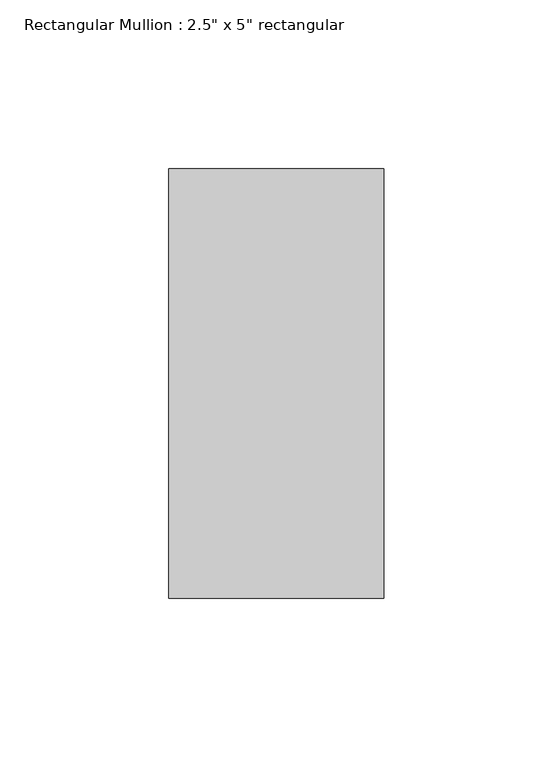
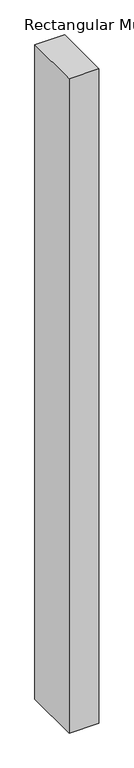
"""IFC4 building model written with IfcOpenShell, lengths in millimetres: member geometry."""

import ifcopenshell
import ifcopenshell.guid

model = None  # the IFC model being written
_history = None  # IfcOwnerHistory: only IFC2X3 demands one
_inside = {}  # id of a spatial element -> (the spatial element, [elements in it])
_under = {}  # id of a project, library or spatial element -> (it, [spatial elements below it])
_declared = {}  # id of a project -> (the project, [libraries it declares])
_typed = {}  # id of a type object -> (the type object, [elements of that type])
_made_of = {}  # id of a material, layer set ... -> (it, [elements and type objects made of it])


def new_model(schema):
    """Start an empty IFC model of exactly this schema.

    Asked for "IFC4X3", IfcOpenShell would pick the latest addendum, in which some entities
    have other attributes; the version numbers below select the first issue.
    IFC2X3 requires an IfcOwnerHistory on every rooted entity: one is made here for all.
    """
    global model, _history
    if schema == "IFC4X3":
        model = ifcopenshell.file(schema_version=(4, 3, 0, 0))
    else:
        model = ifcopenshell.file(schema=schema)
    _inside.clear()
    _under.clear()
    _declared.clear()
    _typed.clear()
    _made_of.clear()
    _history = None
    if model.schema == "IFC2X3":
        org = make("IfcOrganization", Name="unknown")
        user = make(
            "IfcPersonAndOrganization",
            ThePerson=make("IfcPerson", FamilyName="unknown"),
            TheOrganization=org,
        )
        app = make(
            "IfcApplication",
            ApplicationDeveloper=org,
            Version="unknown",
            ApplicationFullName="unknown",
            ApplicationIdentifier="unknown",
        )
        _history = make(
            "IfcOwnerHistory",
            OwningUser=user,
            OwningApplication=app,
            ChangeAction="ADDED",
            CreationDate=0,
        )
    return model


def make(cls, **values):
    """One entity of the class cls with the attributes given. An attribute that is None is left unset."""
    return model.create_entity(
        cls, **{name: value for name, value in values.items() if value is not None}
    )


def rooted(cls, **values):
    """An entity with a GlobalId (a new one), such as an element, a storey or a relation."""
    return make(cls, GlobalId=ifcopenshell.guid.new(), OwnerHistory=_history, **values)


def si_unit(unit_type, name, prefix=None):
    """IfcSIUnit, for example si_unit("LENGTHUNIT", "METRE", prefix="MILLI")."""
    return make("IfcSIUnit", UnitType=unit_type, Prefix=prefix, Name=name)


def assignment(units):
    """IfcUnitAssignment: the units of a project."""
    return None if units is None else make("IfcUnitAssignment", Units=units)


def point(xyz):
    """IfcCartesianPoint."""
    return None if xyz is None else make("IfcCartesianPoint", Coordinates=xyz)


def direction(xyz):
    """IfcDirection."""
    return None if xyz is None else make("IfcDirection", DirectionRatios=xyz)


def frame(location, z_axis=None, x_axis=None):
    """IfcAxis2Placement3D, a coordinate frame: its origin and axes. An axis left out is left unset."""
    return make(
        "IfcAxis2Placement3D",
        Location=point(location),
        Axis=direction(z_axis),
        RefDirection=direction(x_axis),
    )


def origin():
    """The frame at (0, 0, 0) with its axes left unset."""
    return frame((0.0, 0.0, 0.0))


def place(relative_to, where):
    """IfcLocalPlacement: puts the frame where relative to a parent placement (None: the world)."""
    return make(
        "IfcLocalPlacement", PlacementRelTo=relative_to, RelativePlacement=where
    )


def context(
    kind, dimensions, precision=None, world=None, true_north=None, identifier=None
):
    """IfcGeometricRepresentationContext, for example the 3D "Model" context."""
    return make(
        "IfcGeometricRepresentationContext",
        ContextIdentifier=identifier,
        ContextType=kind,
        CoordinateSpaceDimension=dimensions,
        Precision=precision,
        WorldCoordinateSystem=world,
        TrueNorth=true_north,
    )


def project(units=None, contexts=None):
    """IfcProject with its units and contexts."""
    return rooted(
        "IfcProject",
        Name="project",
        RepresentationContexts=contexts,
        UnitsInContext=assignment(units),
    )


def spatial(cls, under=None, at=None, **own):
    """A site, building, storey or space (cls), placed at a placement, below another one or the project."""
    s = rooted(cls, ObjectPlacement=at, **own)
    if under is not None:
        _under.setdefault(under.id(), (under, []))[1].append(s)
    return s


def polyline(points):
    """IfcPolyline through the points."""
    return make("IfcPolyline", Points=[point(p) for p in points])


def outline(outer, holes=None, kind="AREA"):
    """IfcArbitraryClosedProfileDef: a profile drawn as a closed curve; with holes, ...WithVoids."""
    if holes is None:
        return make("IfcArbitraryClosedProfileDef", ProfileType=kind, OuterCurve=outer)
    return make(
        "IfcArbitraryProfileDefWithVoids",
        ProfileType=kind,
        OuterCurve=outer,
        InnerCurves=holes,
    )


def extrude(swept, where, along, depth):
    """IfcExtrudedAreaSolid: the profile swept, set in the frame where, extruded along a direction by depth."""
    return make(
        "IfcExtrudedAreaSolid",
        SweptArea=swept,
        Position=where,
        ExtrudedDirection=direction(along),
        Depth=depth,
    )


def shape(context_of_items, identifier, shape_type, items):
    """IfcShapeRepresentation: the items that make up one representation, for example the "Body"."""
    return make(
        "IfcShapeRepresentation",
        ContextOfItems=context_of_items,
        RepresentationIdentifier=identifier,
        RepresentationType=shape_type,
        Items=items,
    )


def source(mapping_origin, context_of_items, identifier, shape_type, items):
    """IfcRepresentationMap: a shape defined once, which mapped items show again and again."""
    return make(
        "IfcRepresentationMap",
        MappingOrigin=mapping_origin,
        MappedRepresentation=shape(context_of_items, identifier, shape_type, items),
    )


def transform(
    local_origin,
    x_axis=None,
    y_axis=None,
    z_axis=None,
    scale=None,
    scale2=None,
    scale3=None,
    uniform=True,
):
    """IfcCartesianTransformationOperator3D, or its non-uniform kind. x_axis, y_axis, z_axis: its Axis1, 2, 3."""
    if uniform:
        return make(
            "IfcCartesianTransformationOperator3D",
            Axis1=direction(x_axis),
            Axis2=direction(y_axis),
            LocalOrigin=point(local_origin),
            Scale=scale,
            Axis3=direction(z_axis),
        )
    return make(
        "IfcCartesianTransformationOperator3DnonUniform",
        Axis1=direction(x_axis),
        Axis2=direction(y_axis),
        LocalOrigin=point(local_origin),
        Scale=scale,
        Axis3=direction(z_axis),
        Scale2=scale2,
        Scale3=scale3,
    )


def mapped(mapping_source, mapping_target):
    """IfcMappedItem: shows the shape of a source again, moved by a transform."""
    return make(
        "IfcMappedItem", MappingSource=mapping_source, MappingTarget=mapping_target
    )


def made_of(thing, what):
    """Note that an element or type object is made of a material, layer set ...; save() writes the relation."""
    if what is not None:
        _made_of.setdefault(what.id(), (what, []))[1].append(thing)
    return thing


def element(
    cls,
    number,
    at=None,
    inside=None,
    cuts=None,
    type_object=None,
    material=None,
    context=None,
    identifier="Body",
    shape_type=None,
    held_by="IfcProductDefinitionShape",
    body=None,
    shapes=None,
    **own,
):
    """One element of the class cls, such as IfcWall. Its Tag is "e" and its number.

    at: its placement. inside: the storey or other place that contains it. cuts: it is an
    opening in that element (IfcRelVoidsElement). A single representation is given by context,
    identifier, shape_type and body (its items); several are given by shapes. held_by: the class
    of the entity that holds the representations. save() writes the other relations.
    """
    e = rooted(cls, Tag="e%d" % number, ObjectPlacement=at, **own)
    if body is not None:
        shapes = [shape(context, identifier, shape_type, body)]
    if shapes is not None:
        e.Representation = make(held_by, Representations=shapes)
    if inside is not None:
        _inside.setdefault(inside.id(), (inside, []))[1].append(e)
    if cuts is not None:
        rooted(
            "IfcRelVoidsElement", RelatingBuildingElement=cuts, RelatedOpeningElement=e
        )
    if type_object is not None:
        _typed.setdefault(type_object.id(), (type_object, []))[1].append(e)
    return made_of(e, material)


def aggregate(whole, parts):
    """IfcRelAggregates: a whole, such as a stair, and the parts it consists of."""
    return rooted("IfcRelAggregates", RelatingObject=whole, RelatedObjects=parts)


def save(model, path):
    """Write the relations noted so far, then the file.

    IfcRelAggregates (storeys below a building ...), IfcRelContainedInSpatialStructure (elements
    in a storey), IfcRelDefinesByType, IfcRelAssociatesMaterial and IfcRelDeclares: one each for
    every whole, place, type object, material and project.
    """
    for whole, parts in _under.values():
        aggregate(whole, parts)
    for where, things in _inside.values():
        rooted(
            "IfcRelContainedInSpatialStructure",
            RelatedElements=things,
            RelatingStructure=where,
        )
    for kind, things in _typed.values():
        rooted("IfcRelDefinesByType", RelatedObjects=things, RelatingType=kind)
    for what, things in _made_of.values():
        rooted("IfcRelAssociatesMaterial", RelatedObjects=things, RelatingMaterial=what)
    for by, libraries in _declared.values():
        rooted("IfcRelDeclares", RelatingContext=by, RelatedDefinitions=libraries)
    model.write(path)


def member_fcc16395(model_context):
    return source(origin(), model_context, "Body", "SweptSolid", [
        extrude(outline(polyline([(0.0, 63.5), (0.0, -63.5), (-63.5, -63.5), (-63.5, 63.5), (0.0, 63.5)])), frame((0.0, 0.0, -1478.1654135), z_axis=(0.0, 0.0, 1.0), x_axis=(1.0, 0.0, 0.0)), (0.0, 0.0, 1.0), 1478.1654135),
    ])


if __name__ == "__main__":
    model = new_model("IFC4")
    model_context = context("Model", 3, world=origin())
    ifc_project = project(units=[si_unit("LENGTHUNIT", "METRE", prefix="MILLI")], contexts=[model_context])
    site = spatial("IfcSite", under=ifc_project)
    building = spatial("IfcBuilding", under=site)
    placement = place(None, origin())
    member_shape = member_fcc16395(model_context)
    element("IfcMember", 1, ObjectType="Rectangular Mullion : 2.5\" x 5\" rectangular", at=placement, inside=building, context=model_context, shape_type="MappedRepresentation", body=[
        mapped(member_shape, transform((0.0, 0.0, 0.0), x_axis=(1.0, 0.0, 0.0), y_axis=(0.0, 1.0, 0.0), z_axis=(0.0, 0.0, 1.0))),
    ])
    save(model, "model.ifc")
